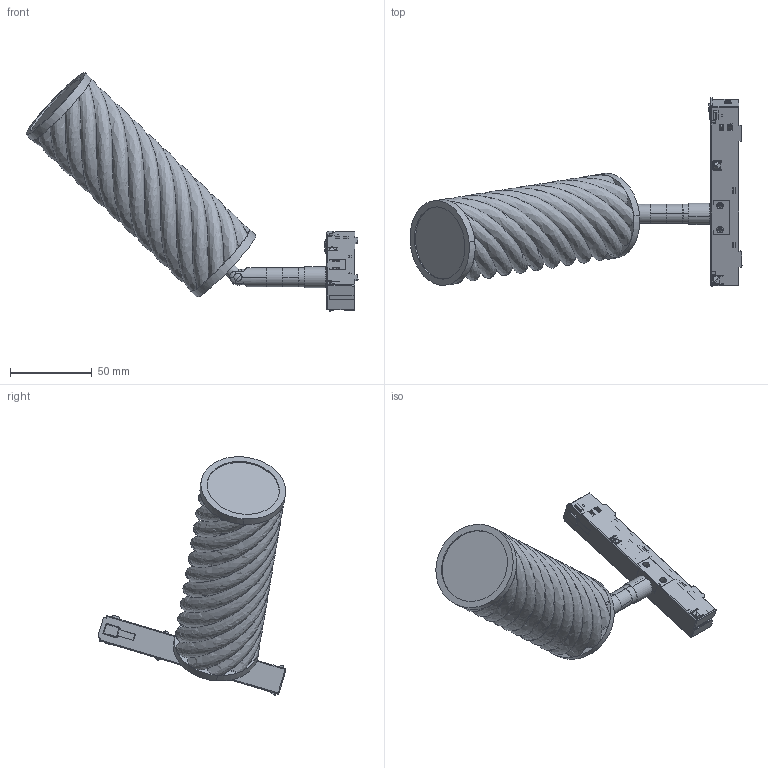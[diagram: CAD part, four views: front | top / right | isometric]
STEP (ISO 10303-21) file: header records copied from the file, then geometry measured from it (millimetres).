
FILE_DESCRIPTION (( 'STEP AP214' ), '1' );
FILE_NAME ('TURA_3D_tracklight.STEP', '2025-09-16T14:26:36', ( '' ), ( '' ), 'SwSTEP 2.0', 'SolidWorks 2018', '' );
FILE_SCHEMA (( 'AUTOMOTIVE_DESIGN' ));
Length unit declared in the file: millimetre
Products named in the file (6): Rotula_tura; prueba 2; rotula3 1; TURA_3D_tracklight; cabezal tura; Rotula1 1
Assembly tree (5 placements, depth 2):
  TURA_3D_tracklight
    Rotula1 1
    rotula3 1
    prueba 2
    cabezal tura
    Rotula_tura
Bounding box: 203.2 x 115.03 x 145.95 mm (x, y, z)
Volume: 75242.1 mm3; surface area: 131332 mm2
Topology: 7 solids, 47 shells, 1708 faces, 4679 edges, 3047 vertices
Faces by surface type: plane 1270, cylinder 285, bspline 97, cone 44, torus 10, sphere 2
Entity records: 84613 total; most frequent: CARTESIAN_POINT 26797, ORIENTED_EDGE 9304, DIRECTION 6893, EDGE_CURVE 4658, VERTEX_POINT 3045, VECTOR 2641, LINE 2641, AXIS2_PLACEMENT_3D 2126
